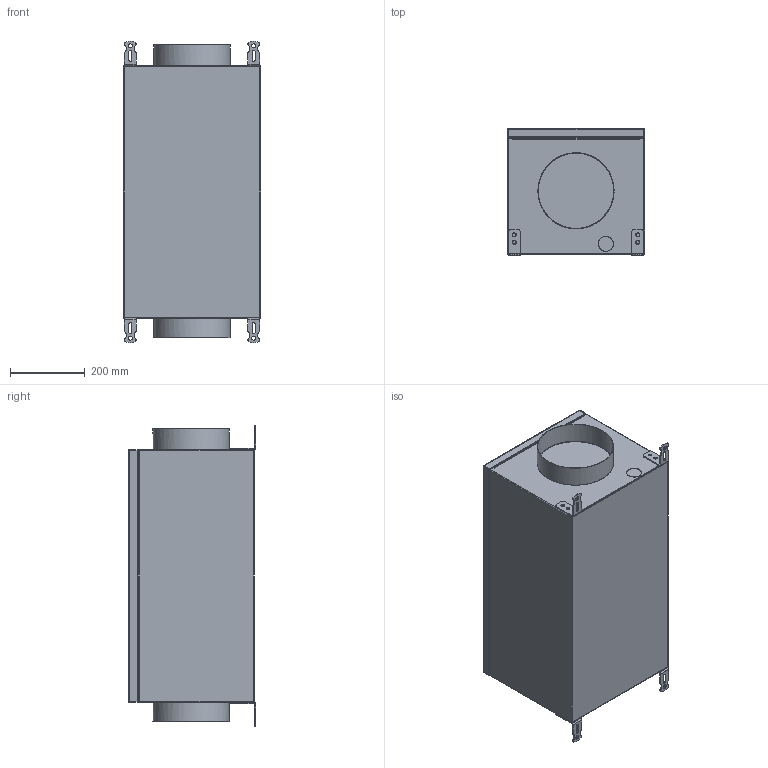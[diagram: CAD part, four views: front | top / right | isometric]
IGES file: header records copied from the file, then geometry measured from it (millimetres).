
Global section: file name: C:\Users\g.annenkov\Dropbox\Works\Âåíòèëÿòîð\E650\600-01\2021.06.01 Íà ñàéò\700-01.igs; native system: NX V1899; preprocessor: SIEMENS PLM Software NX 1919; date: 20210602.002032; units: millimetre
Bounding box: 367 x 341 x 807 mm (x, y, z)
Surface area: 1851012.9 mm2 (no closed solid volume)
Topology: 0 solids, 0 shells, 324 faces, 2131 edges, 2108 vertices
Faces by surface type: bspline 324
